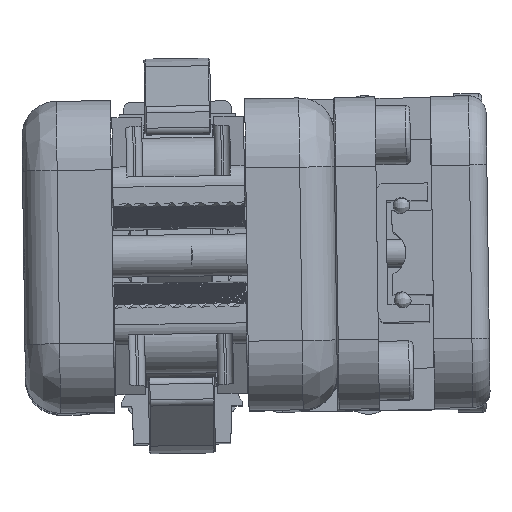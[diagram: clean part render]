
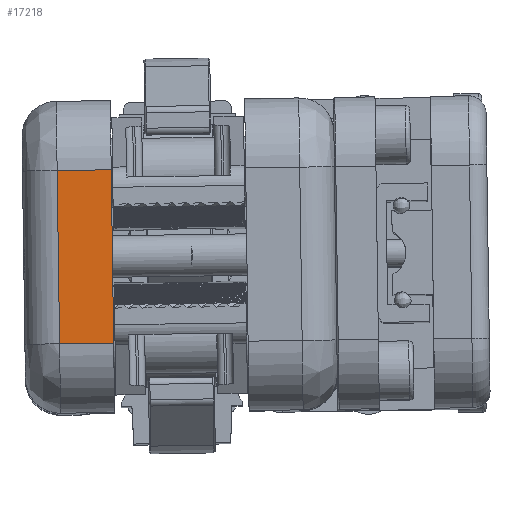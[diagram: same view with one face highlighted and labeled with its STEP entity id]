
A CAD part, top view. The second image highlights one B-rep face of the part: STEP entity #17218.
In plain terms, the highlighted planar face has unit normal (0, 0, 1).
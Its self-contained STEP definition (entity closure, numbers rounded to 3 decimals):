
#1345=LINE('',#45223,#3269);
#1346=LINE('',#45226,#3270);
#1347=LINE('',#45228,#3271);
#1348=LINE('',#45230,#3272);
#3269=VECTOR('',#37763,1.);
#3270=VECTOR('',#37764,1.);
#3271=VECTOR('',#37765,1.);
#3272=VECTOR('',#37766,1.);
#14318=FACE_OUTER_BOUND('',#20105,.T.);
#15240=PLANE('',#33308);
#17218=ADVANCED_FACE('',(#14318),#15240,.F.);
#20105=EDGE_LOOP('',(#23903,#23904,#23905,#23906));
#23903=ORIENTED_EDGE('',*,*,#30657,.T.);
#23904=ORIENTED_EDGE('',*,*,#30658,.T.);
#23905=ORIENTED_EDGE('',*,*,#30659,.T.);
#23906=ORIENTED_EDGE('',*,*,#30660,.T.);
#28180=VERTEX_POINT('',#45224);
#28181=VERTEX_POINT('',#45225);
#28182=VERTEX_POINT('',#45227);
#28183=VERTEX_POINT('',#45229);
#30657=EDGE_CURVE('',#28180,#28181,#1345,.T.);
#30658=EDGE_CURVE('',#28181,#28182,#1346,.T.);
#30659=EDGE_CURVE('',#28182,#28183,#1347,.T.);
#30660=EDGE_CURVE('',#28183,#28180,#1348,.T.);
#33308=AXIS2_PLACEMENT_3D('',#45231,#37767,#37768);
#37763=DIRECTION('',(0.014,-1.,0.));
#37764=DIRECTION('',(1.,0.014,0.));
#37765=DIRECTION('',(-0.014,1.,0.));
#37766=DIRECTION('',(-1.,-0.014,0.));
#37767=DIRECTION('',(0.,0.,-1.));
#37768=DIRECTION('',(0.014,-1.,0.));
#45223=CARTESIAN_POINT('',(-17.182,-22.744,282.));
#45224=CARTESIAN_POINT('',(-17.674,12.253,282.));
#45225=CARTESIAN_POINT('',(-17.322,-12.745,282.));
#45226=CARTESIAN_POINT('',(-22.322,-12.815,282.));
#45227=CARTESIAN_POINT('',(-9.523,-12.635,282.));
#45228=CARTESIAN_POINT('',(-10.016,22.361,282.));
#45229=CARTESIAN_POINT('',(-9.875,12.362,282.));
#45230=CARTESIAN_POINT('',(-22.674,12.182,282.));
#45231=CARTESIAN_POINT('',(-22.814,22.181,282.));
